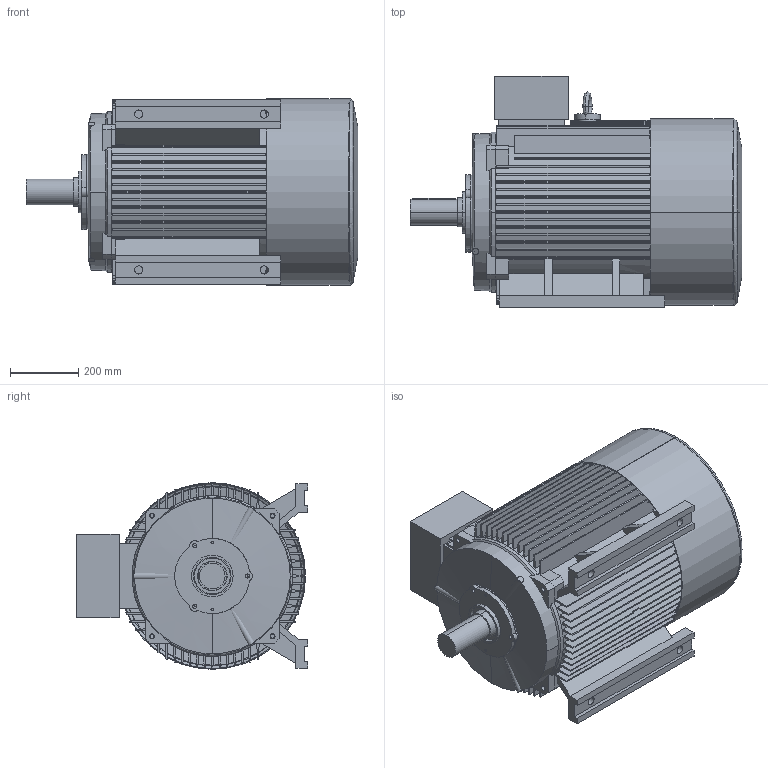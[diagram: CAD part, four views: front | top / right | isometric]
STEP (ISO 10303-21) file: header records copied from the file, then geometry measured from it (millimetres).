
FILE_DESCRIPTION (( 'STEP AP203' ), '1' );
FILE_NAME ('M3-280S-4p-FF-B3.STEP', '2019-07-09T10:46:41', ( '' ), ( '' ), 'SwSTEP 2.0', 'SolidWorks 2012', '' );
FILE_SCHEMA (( 'CONFIG_CONTROL_DESIGN' ));
Length unit declared in the file: millimetre
Products named in the file (8): Y2-280ｦｾﾂ-ｩﾃ_-ｼ+､; 280ﾁｧ+ﾀ_-ｼ+､; Y2-280S.M-4.6.8ﾍﾟ_-ｼ+､; M3-280S-4p-FF-B3; Y2-280-4ﾃｦﾂ-ｩﾃ_-ｼ+､; Y2-280S+ｷﾎｨB3_-ｼ+､; Ã¦Íß¦ð-Ô©ÃY2-280-4_-¼+¤; Y2-280-4.6.8ﾀiﾍ_-ｼ+､
Assembly tree (7 placements, depth 2):
  M3-280S-4p-FF-B3
    Y2-280ｦｾﾂ-ｩﾃ_-ｼ+､
    280ﾁｧ+ﾀ_-ｼ+､
    Y2-280S.M-4.6.8ﾍﾟ_-ｼ+､
    Y2-280-4.6.8ﾀiﾍ_-ｼ+､
    Y2-280S+ｷﾎｨB3_-ｼ+､
    Ã¦Íß¦ð-Ô©ÃY2-280-4_-¼+¤
    Y2-280-4ﾃｦﾂ-ｩﾃ_-ｼ+､
Bounding box: 972.53 x 679 x 547 mm (x, y, z)
Volume: 36146004.8 mm3; surface area: 6758067.7 mm2
Topology: 10 solids, 10 shells, 795 faces, 2112 edges, 1396 vertices
Faces by surface type: plane 454, cylinder 289, cone 30, bspline 22
Entity records: 27676 total; most frequent: CARTESIAN_POINT 6408, DIRECTION 4346, ORIENTED_EDGE 4224, EDGE_CURVE 2112, AXIS2_PLACEMENT_3D 1534, VERTEX_POINT 1396, LINE 1278, VECTOR 1278
